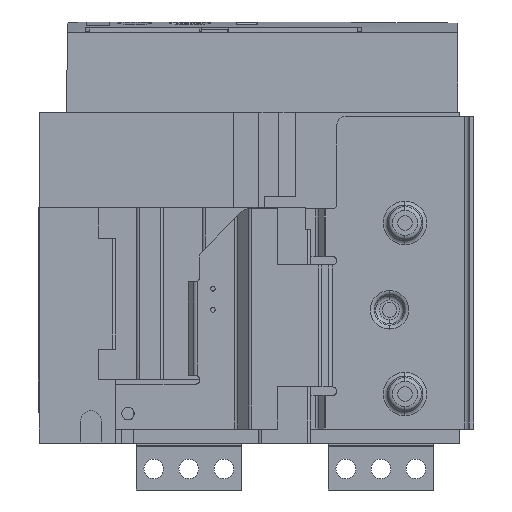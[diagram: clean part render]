
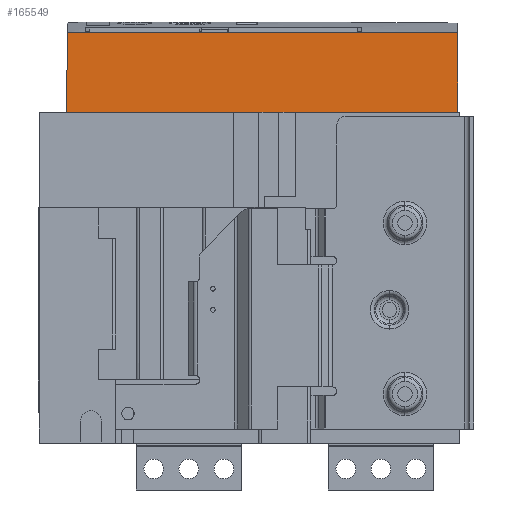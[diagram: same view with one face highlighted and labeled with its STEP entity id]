
A CAD part, left-side view. The second image highlights one B-rep face of the part: STEP entity #165549.
In plain terms, the highlighted planar face has unit normal (-1, 0, 0.009).
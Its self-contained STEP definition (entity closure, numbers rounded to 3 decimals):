
#5996 = EDGE_CURVE ( 'NONE', #64168, #60548, #117268, .T. ) ;
#20403 = DIRECTION ( 'NONE',  ( -1., 0., 0.009 ) ) ;
#22726 = CARTESIAN_POINT ( 'NONE',  ( 25.475, 130.573, 458.153 ) ) ;
#23877 = DIRECTION ( 'NONE',  ( -0.009, 0.009, -1. ) ) ;
#25297 = CARTESIAN_POINT ( 'NONE',  ( 26.068, 131.667, 526.153 ) ) ;
#44886 = VECTOR ( 'NONE', #126754, 1000. ) ;
#54824 = VECTOR ( 'NONE', #23877, 1000. ) ;
#60548 = VERTEX_POINT ( 'NONE', #80442 ) ;
#61992 = ORIENTED_EDGE ( 'NONE', *, *, #194095, .F. ) ;
#64168 = VERTEX_POINT ( 'NONE', #222180 ) ;
#70827 = LINE ( 'NONE', #132243, #190597 ) ;
#75705 = DIRECTION ( 'NONE',  ( 0., 1., 0. ) ) ;
#78908 = EDGE_CURVE ( 'NONE', #60548, #152331, #219199, .T. ) ;
#80442 = CARTESIAN_POINT ( 'NONE',  ( 26.562, 410.285, 582.803 ) ) ;
#93058 = PLANE ( 'NONE',  #110878 ) ;
#109348 = DIRECTION ( 'NONE',  ( 0., 1., 0. ) ) ;
#110878 = AXIS2_PLACEMENT_3D ( 'NONE', #22726, #20403, #109348 ) ;
#117268 = LINE ( 'NONE', #196716, #44886 ) ;
#126754 = DIRECTION ( 'NONE',  ( 0., 1., 0. ) ) ;
#127082 = ORIENTED_EDGE ( 'NONE', *, *, #78908, .T. ) ;
#130757 = VECTOR ( 'NONE', #75705, 1000. ) ;
#132243 = CARTESIAN_POINT ( 'NONE',  ( 25.486, 131.084, 459.436 ) ) ;
#133811 = EDGE_CURVE ( 'NONE', #64168, #222174, #70827, .T. ) ;
#146311 = CARTESIAN_POINT ( 'NONE',  ( 25.496, 411.352, 460.603 ) ) ;
#152331 = VERTEX_POINT ( 'NONE', #226172 ) ;
#165549 = ADVANCED_FACE ( 'NONE', ( #201062 ), #93058, .T. ) ;
#180990 = LINE ( 'NONE', #218159, #130757 ) ;
#185156 = DIRECTION ( 'NONE',  ( -0.009, -0.009, -1. ) ) ;
#190597 = VECTOR ( 'NONE', #185156, 1000. ) ;
#194095 = EDGE_CURVE ( 'NONE', #222174, #152331, #180990, .T. ) ;
#196716 = CARTESIAN_POINT ( 'NONE',  ( 26.562, 130.573, 582.803 ) ) ;
#198537 = ORIENTED_EDGE ( 'NONE', *, *, #133811, .F. ) ;
#201062 = FACE_OUTER_BOUND ( 'NONE', #204559, .T. ) ;
#204559 = EDGE_LOOP ( 'NONE', ( #127082, #61992, #198537, #225492 ) ) ;
#218159 = CARTESIAN_POINT ( 'NONE',  ( 26.068, 130.573, 526.153 ) ) ;
#219199 = LINE ( 'NONE', #146311, #54824 ) ;
#222174 = VERTEX_POINT ( 'NONE', #25297 ) ;
#222180 = CARTESIAN_POINT ( 'NONE',  ( 26.562, 132.161, 582.803 ) ) ;
#225492 = ORIENTED_EDGE ( 'NONE', *, *, #5996, .T. ) ;
#226172 = CARTESIAN_POINT ( 'NONE',  ( 26.068, 410.78, 526.153 ) ) ;
